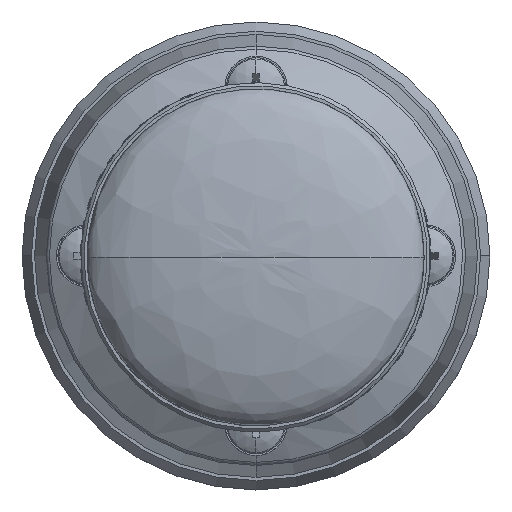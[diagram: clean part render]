
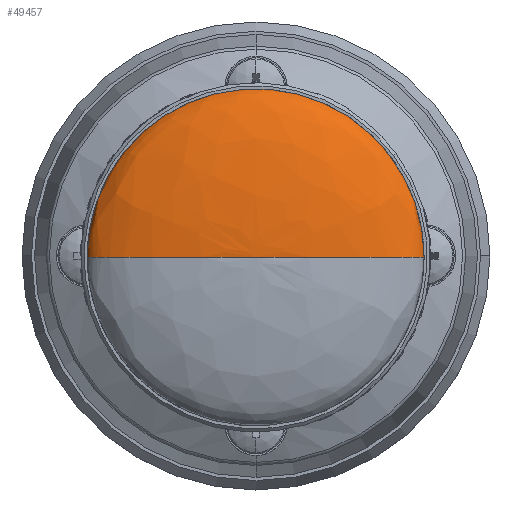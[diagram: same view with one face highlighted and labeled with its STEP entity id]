
A CAD part, top view. The second image highlights one B-rep face of the part: STEP entity #49457.
In plain terms, the highlighted free-form (B-spline) face has degree [2, 3] with [3, 4] control points.
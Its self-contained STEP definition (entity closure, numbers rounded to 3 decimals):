
#361 = VERTEX_POINT ( 'NONE', #13114 ) ;
#2747 = DIRECTION ( 'NONE',  ( 0., 0., -1. ) ) ;
#4740 = EDGE_CURVE ( 'NONE', #20747, #40081, #52741, .T. ) ;
#4937 = EDGE_CURVE ( 'NONE', #20747, #19556, #12948, .T. ) ;
#8897 = CIRCLE ( 'NONE', #70556, 27. ) ;
#9292 = CARTESIAN_POINT ( 'NONE',  ( 0., 0., 74.91 ) ) ;
#12948 = CIRCLE ( 'NONE', #72022, 27. ) ;
#13114 = CARTESIAN_POINT ( 'NONE',  ( 27., 0., 67.91 ) ) ;
#15496 = CARTESIAN_POINT ( 'NONE',  ( 0., 0., 74.91 ) ) ;
#17944 = CARTESIAN_POINT ( 'NONE',  ( 0., 0., 67.91 ) ) ;
#19556 = VERTEX_POINT ( 'NONE', #58245 ) ;
#20747 = VERTEX_POINT ( 'NONE', #74266 ) ;
#21666 = CARTESIAN_POINT ( 'NONE',  ( 0., 0., 74.91 ) ) ;
#22534 = CARTESIAN_POINT ( 'NONE',  ( 27., 0., 67.91 ) ) ;
#24173 = ORIENTED_EDGE ( 'NONE', *, *, #70185, .F. ) ;
#24514 = ORIENTED_EDGE ( 'NONE', *, *, #4740, .T. ) ;
#25117 =( BOUNDED_CURVE ( )  B_SPLINE_CURVE ( 2, ( #52908, #77851, #21666 ),
 .UNSPECIFIED., .F., .T. ) 
 B_SPLINE_CURVE_WITH_KNOTS ( ( 3, 3 ),
 ( 0., 1.571 ),
 .UNSPECIFIED. ) 
 CURVE ( )  GEOMETRIC_REPRESENTATION_ITEM ( )  RATIONAL_B_SPLINE_CURVE ( ( 1., 0.707, 1. ) ) 
 REPRESENTATION_ITEM ( '' )  );
#27081 = CARTESIAN_POINT ( 'NONE',  ( -27., 54., 67.91 ) ) ;
#31040 = EDGE_CURVE ( 'NONE', #19556, #361, #8897, .T. ) ;
#34115 = CARTESIAN_POINT ( 'NONE',  ( 27., 0., 74.91 ) ) ;
#37047 = CARTESIAN_POINT ( 'NONE',  ( 0., 0., 74.91 ) ) ;
#37908 = CARTESIAN_POINT ( 'NONE',  ( -27., 0., 74.91 ) ) ;
#40081 = VERTEX_POINT ( 'NONE', #37047 ) ;
#43106 = DIRECTION ( 'NONE',  ( 0., 0., -1. ) ) ;
#44060 = CARTESIAN_POINT ( 'NONE',  ( 0., 0., 74.91 ) ) ;
#47204 = FACE_OUTER_BOUND ( 'NONE', #57170, .T. ) ;
#47671 = CARTESIAN_POINT ( 'NONE',  ( 0., 0., 67.91 ) ) ;
#48987 = CARTESIAN_POINT ( 'NONE',  ( -27., 0., 67.91 ) ) ;
#49457 = ADVANCED_FACE ( 'NONE', ( #47204 ), #53430, .T. ) ;
#52546 = CARTESIAN_POINT ( 'NONE',  ( -27., 0., 74.91 ) ) ;
#52741 =( BOUNDED_CURVE ( )  B_SPLINE_CURVE ( 2, ( #48987, #37908, #44060 ),
 .UNSPECIFIED., .F., .F. ) 
 B_SPLINE_CURVE_WITH_KNOTS ( ( 3, 3 ),
 ( 0., 1.571 ),
 .UNSPECIFIED. ) 
 CURVE ( )  GEOMETRIC_REPRESENTATION_ITEM ( )  RATIONAL_B_SPLINE_CURVE ( ( 1., 0.707, 1. ) ) 
 REPRESENTATION_ITEM ( '' )  );
#52908 = CARTESIAN_POINT ( 'NONE',  ( 27., 0., 67.91 ) ) ;
#53430 =( BOUNDED_SURFACE ( )  B_SPLINE_SURFACE ( 2, 3, ( 
 ( #59838, #27081, #65974, #22534 ),
 ( #52546, #77073, #70948, #34115 ),
 ( #15496, #77477, #64780, #9292 ) ),
 .UNSPECIFIED., .F., .F., .F. ) 
 B_SPLINE_SURFACE_WITH_KNOTS ( ( 3, 3 ),
 ( 4, 4 ),
 ( 0., 1.571 ),
 ( 0., 1. ),
 .UNSPECIFIED. ) 
 GEOMETRIC_REPRESENTATION_ITEM ( )  RATIONAL_B_SPLINE_SURFACE ( (
 ( 1., 0.333, 0.333, 1.),
 ( 0.707, 0.236, 0.236, 0.707),
 ( 1., 0.333, 0.333, 1.) ) ) 
 REPRESENTATION_ITEM ( '' )  SURFACE ( )  );
#57170 = EDGE_LOOP ( 'NONE', ( #58284, #24514, #24173, #63077 ) ) ;
#58245 = CARTESIAN_POINT ( 'NONE',  ( -2.118, 26.917, 67.91 ) ) ;
#58284 = ORIENTED_EDGE ( 'NONE', *, *, #4937, .F. ) ;
#59838 = CARTESIAN_POINT ( 'NONE',  ( -27., 0., 67.91 ) ) ;
#63077 = ORIENTED_EDGE ( 'NONE', *, *, #31040, .F. ) ;
#64780 = CARTESIAN_POINT ( 'NONE',  ( 0., 0., 74.91 ) ) ;
#65974 = CARTESIAN_POINT ( 'NONE',  ( 27., 54., 67.91 ) ) ;
#66793 = DIRECTION ( 'NONE',  ( -1., 0., 0. ) ) ;
#70185 = EDGE_CURVE ( 'NONE', #361, #40081, #25117, .T. ) ;
#70556 = AXIS2_PLACEMENT_3D ( 'NONE', #17944, #43106, #66793 ) ;
#70948 = CARTESIAN_POINT ( 'NONE',  ( 27., 54., 74.91 ) ) ;
#72022 = AXIS2_PLACEMENT_3D ( 'NONE', #47671, #2747, #72610 ) ;
#72610 = DIRECTION ( 'NONE',  ( -1., 0., 0. ) ) ;
#74266 = CARTESIAN_POINT ( 'NONE',  ( -27., 0., 67.91 ) ) ;
#77073 = CARTESIAN_POINT ( 'NONE',  ( -27., 54., 74.91 ) ) ;
#77477 = CARTESIAN_POINT ( 'NONE',  ( 0., 0., 74.91 ) ) ;
#77851 = CARTESIAN_POINT ( 'NONE',  ( 27., 0., 74.91 ) ) ;
